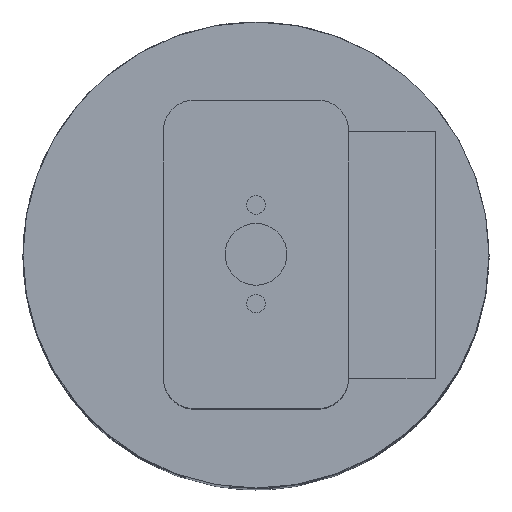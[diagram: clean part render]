
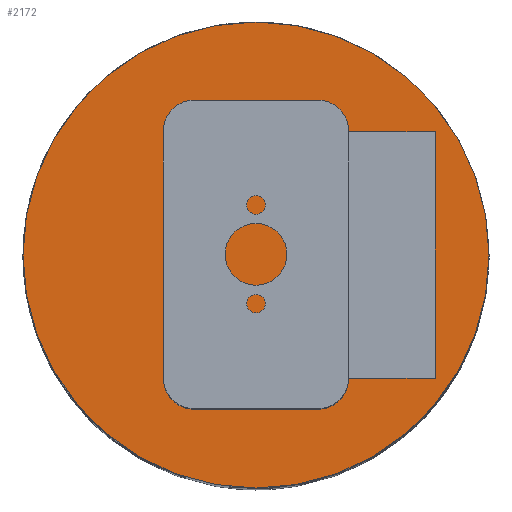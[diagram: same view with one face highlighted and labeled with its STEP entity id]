
A CAD part, top view. The second image highlights one B-rep face of the part: STEP entity #2172.
In plain terms, the highlighted planar face has unit normal (0, 0, 1).
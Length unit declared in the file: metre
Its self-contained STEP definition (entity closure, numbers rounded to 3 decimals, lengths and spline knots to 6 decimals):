
#91=LINE('',#3170,#283);
#92=LINE('',#3173,#284);
#93=LINE('',#3175,#285);
#94=LINE('',#3179,#286);
#95=LINE('',#3183,#287);
#96=LINE('',#3185,#288);
#97=LINE('',#3187,#289);
#98=LINE('',#3191,#290);
#99=LINE('',#3195,#291);
#100=LINE('',#3197,#292);
#283=VECTOR('',#2536,1.);
#284=VECTOR('',#2537,1.);
#285=VECTOR('',#2538,1.);
#286=VECTOR('',#2541,1.);
#287=VECTOR('',#2544,1.);
#288=VECTOR('',#2545,1.);
#289=VECTOR('',#2546,1.);
#290=VECTOR('',#2549,1.);
#291=VECTOR('',#2552,1.);
#292=VECTOR('',#2553,1.);
#477=ORIENTED_EDGE('',*,*,#1097,.F.);
#478=ORIENTED_EDGE('',*,*,#1098,.T.);
#479=ORIENTED_EDGE('',*,*,#1099,.T.);
#480=ORIENTED_EDGE('',*,*,#1100,.F.);
#481=ORIENTED_EDGE('',*,*,#1101,.F.);
#482=ORIENTED_EDGE('',*,*,#1102,.F.);
#483=ORIENTED_EDGE('',*,*,#1103,.F.);
#484=ORIENTED_EDGE('',*,*,#1104,.T.);
#485=ORIENTED_EDGE('',*,*,#1105,.T.);
#486=ORIENTED_EDGE('',*,*,#1106,.F.);
#487=ORIENTED_EDGE('',*,*,#1107,.T.);
#488=ORIENTED_EDGE('',*,*,#1108,.F.);
#489=ORIENTED_EDGE('',*,*,#1109,.T.);
#490=ORIENTED_EDGE('',*,*,#1110,.F.);
#491=ORIENTED_EDGE('',*,*,#1111,.T.);
#1097=EDGE_CURVE('',#1407,#1408,#91,.T.);
#1098=EDGE_CURVE('',#1407,#1409,#92,.T.);
#1099=EDGE_CURVE('',#1409,#1410,#93,.T.);
#1100=EDGE_CURVE('',#1411,#1410,#1619,.T.);
#1101=EDGE_CURVE('',#1412,#1411,#94,.T.);
#1102=EDGE_CURVE('',#1413,#1412,#1620,.T.);
#1103=EDGE_CURVE('',#1414,#1413,#95,.T.);
#1104=EDGE_CURVE('',#1414,#1415,#96,.T.);
#1105=EDGE_CURVE('',#1415,#1416,#97,.T.);
#1106=EDGE_CURVE('',#1417,#1416,#1621,.T.);
#1107=EDGE_CURVE('',#1417,#1418,#98,.T.);
#1108=EDGE_CURVE('',#1419,#1418,#1622,.T.);
#1109=EDGE_CURVE('',#1419,#1420,#99,.T.);
#1110=EDGE_CURVE('',#1408,#1420,#100,.T.);
#1111=EDGE_CURVE('',#1421,#1421,#1623,.T.);
#1407=VERTEX_POINT('',#3171);
#1408=VERTEX_POINT('',#3172);
#1409=VERTEX_POINT('',#3174);
#1410=VERTEX_POINT('',#3176);
#1411=VERTEX_POINT('',#3178);
#1412=VERTEX_POINT('',#3180);
#1413=VERTEX_POINT('',#3182);
#1414=VERTEX_POINT('',#3184);
#1415=VERTEX_POINT('',#3186);
#1416=VERTEX_POINT('',#3188);
#1417=VERTEX_POINT('',#3190);
#1418=VERTEX_POINT('',#3192);
#1419=VERTEX_POINT('',#3194);
#1420=VERTEX_POINT('',#3196);
#1421=VERTEX_POINT('',#3199);
#1619=CIRCLE('',#2304,0.005);
#1620=CIRCLE('',#2305,0.005);
#1621=CIRCLE('',#2306,0.005);
#1622=CIRCLE('',#2307,0.005);
#1623=CIRCLE('',#2308,0.03775);
#1714=EDGE_LOOP('',(#477,#478,#479,#480,#481,#482,#483,#484,#485,#486,#487,
#488,#489,#490));
#1715=EDGE_LOOP('',(#491));
#1909=FACE_BOUND('',#1714,.T.);
#1910=FACE_BOUND('',#1715,.T.);
#2102=PLANE('',#2303);
#2172=ADVANCED_FACE('',(#1909,#1910),#2102,.T.);
#2303=AXIS2_PLACEMENT_3D('',#3169,#2534,#2535);
#2304=AXIS2_PLACEMENT_3D('',#3177,#2539,#2540);
#2305=AXIS2_PLACEMENT_3D('',#3181,#2542,#2543);
#2306=AXIS2_PLACEMENT_3D('',#3189,#2547,#2548);
#2307=AXIS2_PLACEMENT_3D('',#3193,#2550,#2551);
#2308=AXIS2_PLACEMENT_3D('',#3198,#2554,#2555);
#2534=DIRECTION('',(0.,0.,1.));
#2535=DIRECTION('',(1.,0.,0.));
#2536=DIRECTION('',(0.,-1.,0.));
#2537=DIRECTION('',(-1.,0.,0.));
#2538=DIRECTION('',(0.,1.,0.));
#2539=DIRECTION('',(0.,0.,1.));
#2540=DIRECTION('',(1.,0.,0.));
#2541=DIRECTION('',(-1.,0.,0.));
#2542=DIRECTION('',(0.,0.,1.));
#2543=DIRECTION('',(1.,0.,0.));
#2544=DIRECTION('',(-1.,0.,0.));
#2545=DIRECTION('',(0.,-1.,0.));
#2546=DIRECTION('',(-1.,0.,0.));
#2547=DIRECTION('',(0.,0.,1.));
#2548=DIRECTION('',(1.,0.,0.));
#2549=DIRECTION('',(-1.,0.,0.));
#2550=DIRECTION('',(0.,0.,1.));
#2551=DIRECTION('',(1.,0.,0.));
#2552=DIRECTION('',(0.,1.,0.));
#2553=DIRECTION('',(-1.,0.,0.));
#2554=DIRECTION('',(0.,0.,1.));
#2555=DIRECTION('',(1.,0.,0.));
#3169=CARTESIAN_POINT('',(0.,0.,0.182));
#3170=CARTESIAN_POINT('',(0.014031,0.,0.182));
#3171=CARTESIAN_POINT('',(0.014031,0.015,0.182));
#3172=CARTESIAN_POINT('',(0.014031,-0.015,0.182));
#3173=CARTESIAN_POINT('',(0.,0.015,0.182));
#3174=CARTESIAN_POINT('',(-0.015,0.015,0.182));
#3175=CARTESIAN_POINT('',(-0.015,0.0175,0.182));
#3176=CARTESIAN_POINT('',(-0.015,0.02,0.182));
#3177=CARTESIAN_POINT('',(-0.01,0.02,0.182));
#3178=CARTESIAN_POINT('',(-0.01,0.025,0.182));
#3179=CARTESIAN_POINT('',(0.,0.025,0.182));
#3180=CARTESIAN_POINT('',(0.01,0.025,0.182));
#3181=CARTESIAN_POINT('',(0.01,0.02,0.182));
#3182=CARTESIAN_POINT('',(0.015,0.02,0.182));
#3183=CARTESIAN_POINT('',(0.021531,0.02,0.182));
#3184=CARTESIAN_POINT('',(0.029031,0.02,0.182));
#3185=CARTESIAN_POINT('',(0.029031,0.,0.182));
#3186=CARTESIAN_POINT('',(0.029031,-0.02,0.182));
#3187=CARTESIAN_POINT('',(0.021531,-0.02,0.182));
#3188=CARTESIAN_POINT('',(0.015,-0.02,0.182));
#3189=CARTESIAN_POINT('',(0.01,-0.02,0.182));
#3190=CARTESIAN_POINT('',(0.01,-0.025,0.182));
#3191=CARTESIAN_POINT('',(0.,-0.025,0.182));
#3192=CARTESIAN_POINT('',(-0.01,-0.025,0.182));
#3193=CARTESIAN_POINT('',(-0.01,-0.02,0.182));
#3194=CARTESIAN_POINT('',(-0.015,-0.02,0.182));
#3195=CARTESIAN_POINT('',(-0.015,-0.0175,0.182));
#3196=CARTESIAN_POINT('',(-0.015,-0.015,0.182));
#3197=CARTESIAN_POINT('',(0.,-0.015,0.182));
#3198=CARTESIAN_POINT('',(0.,0.,0.182));
#3199=CARTESIAN_POINT('',(0.03775,0.,0.182));
